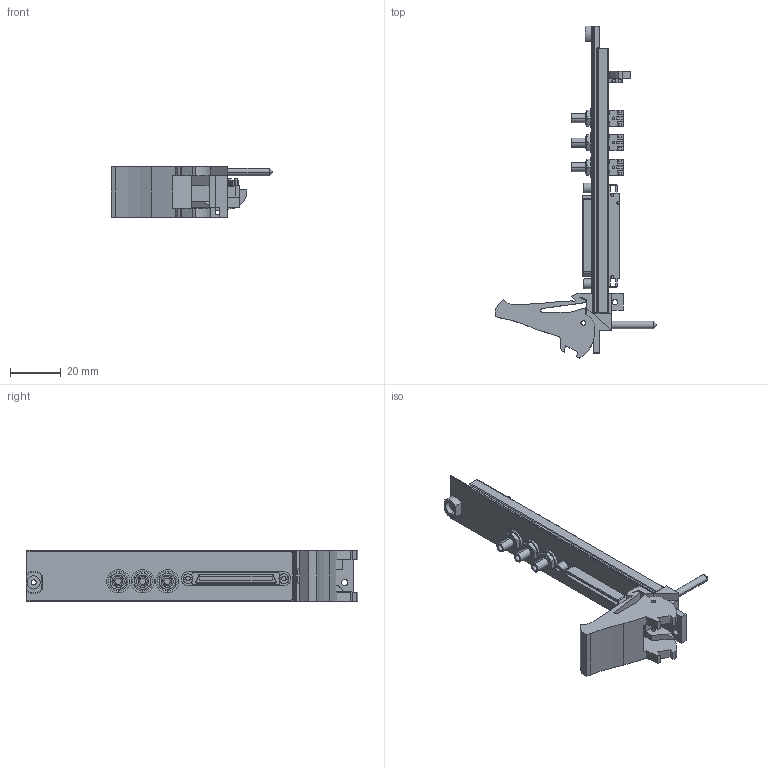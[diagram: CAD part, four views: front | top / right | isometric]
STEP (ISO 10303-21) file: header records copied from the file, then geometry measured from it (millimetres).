
FILE_DESCRIPTION((''),'2;1');
FILE_NAME('CU_PXI-6551','2007-08-06T',('lmcdanie'),(''),'PRO/ENGINEER BY PARAMETRIC TECHNOLOGY CORPORATION, 2006080','PRO/ENGINEER BY PARAMETRIC TECHNOLOGY CORPORATION, 2006080','');
FILE_SCHEMA(('CONFIG_CONTROL_DESIGN'));
Length unit declared in the file: inch
Products named in the file (1): CU_PXI-6551
Bounding box: 63.53 x 130.62 x 20.02 mm (x, y, z)
Volume: 18335.3 mm3; surface area: 18389.1 mm2
Topology: 7 solids, 7 shells, 661 faces, 1728 edges, 1126 vertices
Faces by surface type: plane 443, cylinder 188, cone 22, torus 4, sphere 4
Entity records: 21183 total; most frequent: CARTESIAN_POINT 4492, ORIENTED_EDGE 3448, DIRECTION 3447, EDGE_CURVE 1724, VECTOR 1241, LINE 1241, VERTEX_POINT 1126, AXIS2_PLACEMENT_3D 1103
